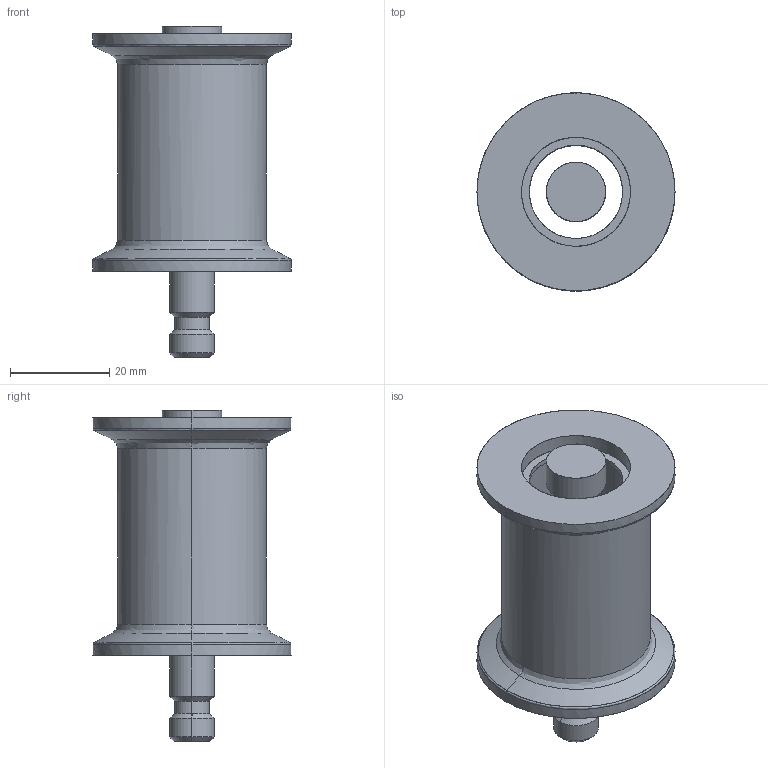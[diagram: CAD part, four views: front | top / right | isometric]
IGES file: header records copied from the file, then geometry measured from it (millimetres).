
Global section: file name: E:\UnigraphicsGraphicData\MISUMI_PRESS-PARTS\IGES\3d_gdrtbt30-38_03792_r00.igs; native system: NX V5.0; preprocessor: UGS NX IGES V5.0; author: MISUMI; date: 20110105.160708; units: millimetre
Bounding box: 40 x 40 x 67 mm (x, y, z)
Surface area: 13959.1 mm2 (no closed solid volume)
Topology: 0 solids, 0 shells, 73 faces, 520 edges, 520 vertices
Faces by surface type: bspline 73
